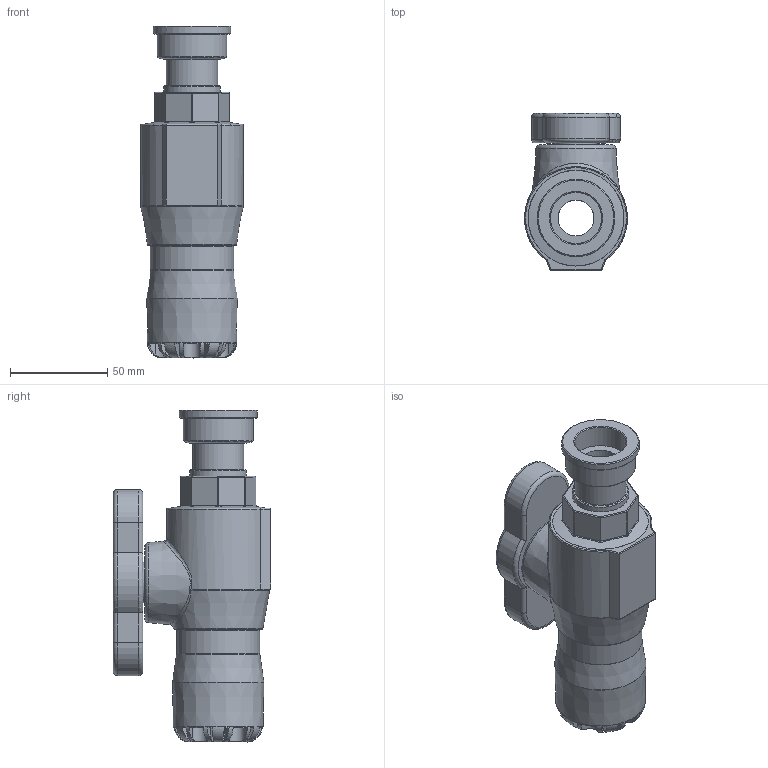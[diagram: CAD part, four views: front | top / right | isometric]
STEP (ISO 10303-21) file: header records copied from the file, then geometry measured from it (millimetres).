
FILE_DESCRIPTION(/* description */ ('PA Ball Valve Series 1 25mm x Free Nut Female 3/4'''''),/* implementation_level */ '2;1');
FILE_NAME(/* name */ 'C:\Dropbox\KIMPROJECTS-Inventor 2019\99-16-3568-Processing\S1\0371016\0371016S00025007_0371016SF0025007.stp',/* time_stamp */ '2022-04-18T19:44:04+03:00',/* author */ ('Lenora'),/* organization */ (''),/* preprocessor_version */ 'ST-DEVELOPER v17.2',/* originating_system */ 'Autodesk Inventor 2019',/* authorisation */ '');
FILE_SCHEMA (('AUTOMOTIVE_DESIGN { 1 0 10303 214 3 1 1 }'));
Length unit declared in the file: millimetre
Products named in the file (1): 0371016S00025007_0371016SF0025007
Bounding box: 52.93 x 81 x 171 mm (x, y, z)
Volume: 279764.9 mm3; surface area: 52174.8 mm2
Topology: 1 solids, 1 shells, 232 faces, 577 edges, 358 vertices
Faces by surface type: plane 86, cylinder 78, bspline 27, torus 22, cone 11, sphere 8
Full cylindrical faces by diameter (mm): 18.509 x1, 20 x1, 21.375 x1, 25 x1, 26.441 x2, 27 x1, 29.085 x1, 36 x1, 40 x1, 42.93 x1
Entity records: 8182 total; most frequent: CARTESIAN_POINT 2709, DIRECTION 1153, ORIENTED_EDGE 1148, EDGE_CURVE 574, AXIS2_PLACEMENT_3D 486, VERTEX_POINT 356, CIRCLE 276, EDGE_LOOP 246
